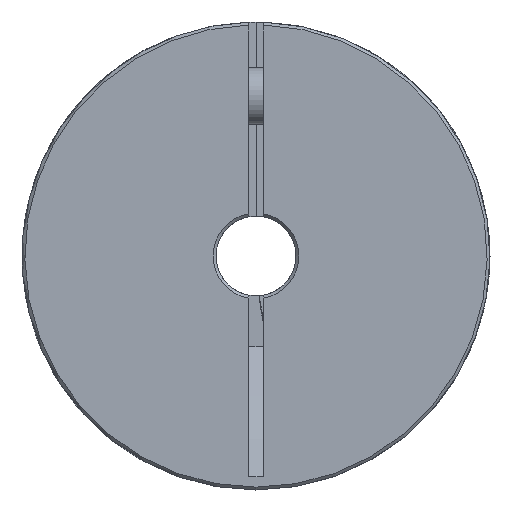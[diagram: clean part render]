
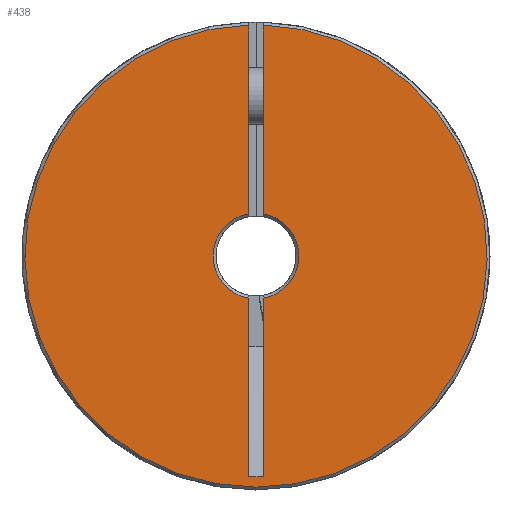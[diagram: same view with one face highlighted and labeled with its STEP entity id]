
A CAD part, left-side view. The second image highlights one B-rep face of the part: STEP entity #438.
In plain terms, the highlighted planar face has unit normal (-1, 0, 0).
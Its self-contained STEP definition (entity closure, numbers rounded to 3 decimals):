
#30 = EDGE_CURVE ( 'NONE', #889, #2278, #3053, .T. ) ;
#40 = ORIENTED_EDGE ( 'NONE', *, *, #30, .T. ) ;
#87 = ORIENTED_EDGE ( 'NONE', *, *, #549, .T. ) ;
#159 = EDGE_CURVE ( 'NONE', #2560, #216, #3826, .T. ) ;
#216 = VERTEX_POINT ( 'NONE', #4293 ) ;
#258 = VERTEX_POINT ( 'NONE', #4570 ) ;
#346 = EDGE_CURVE ( 'NONE', #406, #216, #1511, .T. ) ;
#360 = EDGE_CURVE ( 'NONE', #2278, #258, #1600, .T. ) ;
#406 = VERTEX_POINT ( 'NONE', #1995 ) ;
#438 = ADVANCED_FACE ( 'NONE', ( #2110 ), #2111, .F. ) ;
#467 = ORIENTED_EDGE ( 'NONE', *, *, #4150, .F. ) ;
#527 = EDGE_LOOP ( 'NONE', ( #87, #40, #1751, #3798, #2955, #467, #529, #2632, #2608 ) ) ;
#529 = ORIENTED_EDGE ( 'NONE', *, *, #159, .T. ) ;
#549 = EDGE_CURVE ( 'NONE', #2797, #889, #3781, .T. ) ;
#569 = VERTEX_POINT ( 'NONE', #3961 ) ;
#845 = CARTESIAN_POINT ( 'NONE',  ( 0., 1.3, -7.386 ) ) ;
#889 = VERTEX_POINT ( 'NONE', #845 ) ;
#1288 = CARTESIAN_POINT ( 'NONE',  ( 0., 1.3, -38.697 ) ) ;
#1511 = LINE ( 'NONE', #1517, #1518 ) ;
#1517 = CARTESIAN_POINT ( 'NONE',  ( 0., -1.3, 0. ) ) ;
#1518 = VECTOR ( 'NONE', #1519, 1000. ) ;
#1519 = DIRECTION ( 'NONE',  ( 0., 0., 1. ) ) ;
#1600 = LINE ( 'NONE', #1601, #1602 ) ;
#1601 = CARTESIAN_POINT ( 'NONE',  ( 0., 1.3, 0. ) ) ;
#1602 = VECTOR ( 'NONE', #1603, 1000. ) ;
#1603 = DIRECTION ( 'NONE',  ( 0., 0., 1. ) ) ;
#1751 = ORIENTED_EDGE ( 'NONE', *, *, #360, .T. ) ;
#1858 = CARTESIAN_POINT ( 'NONE',  ( 0., 1.3, 7.386 ) ) ;
#1905 = LINE ( 'NONE', #1906, #1907 ) ;
#1906 = CARTESIAN_POINT ( 'NONE',  ( 0., -1.3, -38.697 ) ) ;
#1907 = VECTOR ( 'NONE', #1908, 1000. ) ;
#1908 = DIRECTION ( 'NONE',  ( 0., 1., 0. ) ) ;
#1960 = CARTESIAN_POINT ( 'NONE',  ( 0., 0., -40.5 ) ) ;
#1978 = CIRCLE ( 'NONE', #1979, 40.5 ) ;
#1979 = AXIS2_PLACEMENT_3D ( 'NONE', #1980, #1981, #1982 ) ;
#1980 = CARTESIAN_POINT ( 'NONE',  ( 0., 0., 0. ) ) ;
#1981 = DIRECTION ( 'NONE',  ( -1., 0., 0. ) ) ;
#1982 = DIRECTION ( 'NONE',  ( 0., 0., -1. ) ) ;
#1995 = CARTESIAN_POINT ( 'NONE',  ( 0., -1.3, -38.697 ) ) ;
#2110 = FACE_OUTER_BOUND ( 'NONE', #527, .T. ) ;
#2111 = PLANE ( 'NONE',  #2112 ) ;
#2112 = AXIS2_PLACEMENT_3D ( 'NONE', #2113, #2114, #2115 ) ;
#2113 = CARTESIAN_POINT ( 'NONE',  ( 0., 7., 0. ) ) ;
#2114 = DIRECTION ( 'NONE',  ( 1., 0., 0. ) ) ;
#2115 = DIRECTION ( 'NONE',  ( 0., 0., -1. ) ) ;
#2278 = VERTEX_POINT ( 'NONE', #1858 ) ;
#2413 = VERTEX_POINT ( 'NONE', #1960 ) ;
#2560 = VERTEX_POINT ( 'NONE', #3275 ) ;
#2608 = ORIENTED_EDGE ( 'NONE', *, *, #2865, .T. ) ;
#2632 = ORIENTED_EDGE ( 'NONE', *, *, #346, .F. ) ;
#2797 = VERTEX_POINT ( 'NONE', #1288 ) ;
#2865 = EDGE_CURVE ( 'NONE', #406, #2797, #1905, .T. ) ;
#2875 = EDGE_CURVE ( 'NONE', #2413, #569, #1978, .T. ) ;
#2955 = ORIENTED_EDGE ( 'NONE', *, *, #2875, .T. ) ;
#3053 = CIRCLE ( 'NONE', #3054, 7.5 ) ;
#3054 = AXIS2_PLACEMENT_3D ( 'NONE', #3055, #3056, #3057 ) ;
#3055 = CARTESIAN_POINT ( 'NONE',  ( 0., 0., 0. ) ) ;
#3056 = DIRECTION ( 'NONE',  ( 1., 0., 0. ) ) ;
#3057 = DIRECTION ( 'NONE',  ( 0., 0., -1. ) ) ;
#3275 = CARTESIAN_POINT ( 'NONE',  ( 0., -1.3, 7.386 ) ) ;
#3709 = EDGE_CURVE ( 'NONE', #258, #2413, #4005, .T. ) ;
#3781 = LINE ( 'NONE', #3782, #3783 ) ;
#3782 = CARTESIAN_POINT ( 'NONE',  ( 0., 1.3, 0. ) ) ;
#3783 = VECTOR ( 'NONE', #3784, 1000. ) ;
#3784 = DIRECTION ( 'NONE',  ( 0., 0., 1. ) ) ;
#3798 = ORIENTED_EDGE ( 'NONE', *, *, #3709, .T. ) ;
#3826 = CIRCLE ( 'NONE', #3827, 7.5 ) ;
#3827 = AXIS2_PLACEMENT_3D ( 'NONE', #3828, #3829, #3830 ) ;
#3828 = CARTESIAN_POINT ( 'NONE',  ( 0., 0., 0. ) ) ;
#3829 = DIRECTION ( 'NONE',  ( 1., 0., 0. ) ) ;
#3830 = DIRECTION ( 'NONE',  ( 0., 0., -1. ) ) ;
#3961 = CARTESIAN_POINT ( 'NONE',  ( 0., -1.3, 40.479 ) ) ;
#4005 = CIRCLE ( 'NONE', #4006, 40.5 ) ;
#4006 = AXIS2_PLACEMENT_3D ( 'NONE', #4007, #4008, #4009 ) ;
#4007 = CARTESIAN_POINT ( 'NONE',  ( 0., 0., 0. ) ) ;
#4008 = DIRECTION ( 'NONE',  ( -1., 0., 0. ) ) ;
#4009 = DIRECTION ( 'NONE',  ( 0., 0., -1. ) ) ;
#4150 = EDGE_CURVE ( 'NONE', #2560, #569, #4348, .T. ) ;
#4293 = CARTESIAN_POINT ( 'NONE',  ( 0., -1.3, -7.386 ) ) ;
#4348 = LINE ( 'NONE', #4349, #4350 ) ;
#4349 = CARTESIAN_POINT ( 'NONE',  ( 0., -1.3, 0. ) ) ;
#4350 = VECTOR ( 'NONE', #4351, 1000. ) ;
#4351 = DIRECTION ( 'NONE',  ( 0., 0., 1. ) ) ;
#4570 = CARTESIAN_POINT ( 'NONE',  ( 0., 1.3, 40.479 ) ) ;
